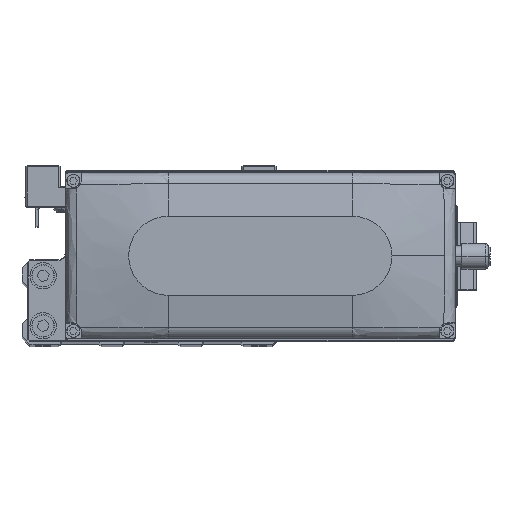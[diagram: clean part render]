
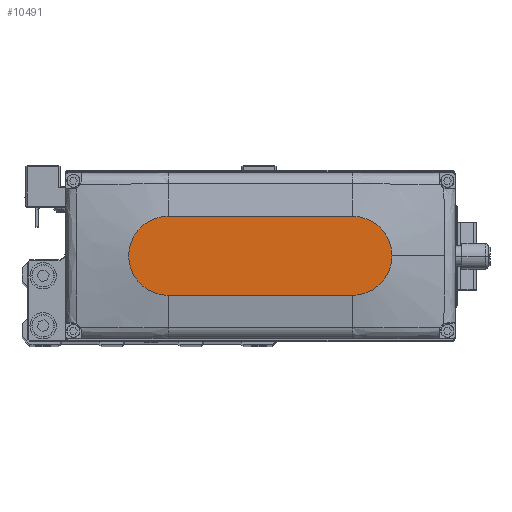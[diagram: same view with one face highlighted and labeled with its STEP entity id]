
A CAD part, top view. The second image highlights one B-rep face of the part: STEP entity #10491.
In plain terms, the highlighted planar face has unit normal (0, 0, 1).
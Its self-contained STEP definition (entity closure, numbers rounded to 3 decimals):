
#1938 = LINE ( 'NONE', #14573, #40837 ) ;
#7155 = DIRECTION ( 'NONE',  ( 1., 0., 0. ) ) ;
#7426 = VERTEX_POINT ( 'NONE', #35678 ) ;
#9048 = DIRECTION ( 'NONE',  ( 0., 0., 1. ) ) ;
#10277 = CARTESIAN_POINT ( 'NONE',  ( 0., 0., 35. ) ) ;
#10491 = ADVANCED_FACE ( 'NONE', ( #25972 ), #38591, .T. ) ;
#10567 = DIRECTION ( 'NONE',  ( 1., 0., 0. ) ) ;
#11237 = EDGE_LOOP ( 'NONE', ( #27923, #24193, #12706, #25611, #12682 ) ) ;
#11637 = LINE ( 'NONE', #24230, #38721 ) ;
#12682 = ORIENTED_EDGE ( 'NONE', *, *, #36602, .T. ) ;
#12706 = ORIENTED_EDGE ( 'NONE', *, *, #24984, .T. ) ;
#14096 = CIRCLE ( 'NONE', #37189, 15. ) ;
#14211 = AXIS2_PLACEMENT_3D ( 'NONE', #10277, #22877, #35496 ) ;
#14573 = CARTESIAN_POINT ( 'NONE',  ( -35., 15., 35. ) ) ;
#16501 = CIRCLE ( 'NONE', #39594, 15. ) ;
#17088 = CARTESIAN_POINT ( 'NONE',  ( 35., 15., 35. ) ) ;
#18657 = CARTESIAN_POINT ( 'NONE',  ( 50., 0., 35. ) ) ;
#20201 = EDGE_CURVE ( 'NONE', #26456, #25116, #14096, .T. ) ;
#21671 = DIRECTION ( 'NONE',  ( 1., 0., 0. ) ) ;
#22862 = CARTESIAN_POINT ( 'NONE',  ( -35., 0., 35. ) ) ;
#22877 = DIRECTION ( 'NONE',  ( 0., 0., 1. ) ) ;
#23624 = VERTEX_POINT ( 'NONE', #17088 ) ;
#24193 = ORIENTED_EDGE ( 'NONE', *, *, #26104, .T. ) ;
#24230 = CARTESIAN_POINT ( 'NONE',  ( -35., -15., 35. ) ) ;
#24984 = EDGE_CURVE ( 'NONE', #7426, #26456, #11637, .T. ) ;
#25116 = VERTEX_POINT ( 'NONE', #18657 ) ;
#25611 = ORIENTED_EDGE ( 'NONE', *, *, #20201, .T. ) ;
#25972 = FACE_OUTER_BOUND ( 'NONE', #11237, .T. ) ;
#26104 = EDGE_CURVE ( 'NONE', #30768, #7426, #16501, .T. ) ;
#26261 = CARTESIAN_POINT ( 'NONE',  ( 35., 0., 35. ) ) ;
#26456 = VERTEX_POINT ( 'NONE', #32071 ) ;
#27162 = DIRECTION ( 'NONE',  ( -1., 0., 0. ) ) ;
#27249 = CARTESIAN_POINT ( 'NONE',  ( -35., 15., 35. ) ) ;
#27683 = CIRCLE ( 'NONE', #32967, 15. ) ;
#27923 = ORIENTED_EDGE ( 'NONE', *, *, #33224, .T. ) ;
#30768 = VERTEX_POINT ( 'NONE', #27249 ) ;
#32071 = CARTESIAN_POINT ( 'NONE',  ( 35., -15., 35. ) ) ;
#32967 = AXIS2_PLACEMENT_3D ( 'NONE', #37369, #9048, #21671 ) ;
#33224 = EDGE_CURVE ( 'NONE', #23624, #30768, #1938, .T. ) ;
#35478 = DIRECTION ( 'NONE',  ( 0., 0., 1. ) ) ;
#35496 = DIRECTION ( 'NONE',  ( 1., 0., 0. ) ) ;
#35678 = CARTESIAN_POINT ( 'NONE',  ( -35., -15., 35. ) ) ;
#36602 = EDGE_CURVE ( 'NONE', #25116, #23624, #27683, .T. ) ;
#36836 = DIRECTION ( 'NONE',  ( 1., 0., 0. ) ) ;
#37189 = AXIS2_PLACEMENT_3D ( 'NONE', #26261, #38876, #10567 ) ;
#37369 = CARTESIAN_POINT ( 'NONE',  ( 35., 0., 35. ) ) ;
#38591 = PLANE ( 'NONE',  #14211 ) ;
#38721 = VECTOR ( 'NONE', #36836, 1000. ) ;
#38876 = DIRECTION ( 'NONE',  ( 0., 0., 1. ) ) ;
#39594 = AXIS2_PLACEMENT_3D ( 'NONE', #22862, #35478, #7155 ) ;
#40837 = VECTOR ( 'NONE', #27162, 1000. ) ;
